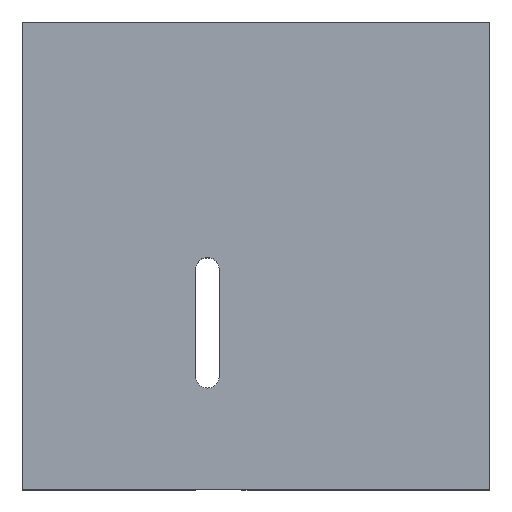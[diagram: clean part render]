
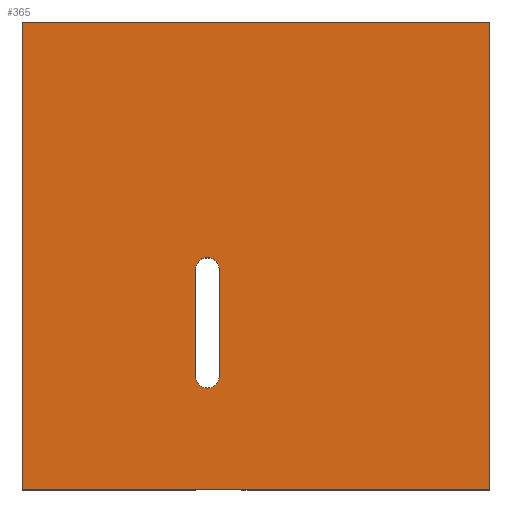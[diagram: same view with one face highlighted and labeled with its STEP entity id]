
A CAD part, top view. The second image highlights one B-rep face of the part: STEP entity #365.
In plain terms, the highlighted planar face has unit normal (0, 0, 1).
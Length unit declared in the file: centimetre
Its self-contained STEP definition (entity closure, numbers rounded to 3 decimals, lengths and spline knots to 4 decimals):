
#9 = VERTEX_POINT ( 'NONE', #216 ) ;
#11 = LINE ( 'NONE', #226, #538 ) ;
#18 = CARTESIAN_POINT ( 'NONE',  ( 370.8298, 241.5987, 1000. ) ) ;
#33 = ORIENTED_EDGE ( 'NONE', *, *, #438, .T. ) ;
#45 = CARTESIAN_POINT ( 'NONE',  ( 1000., 1000., 1000. ) ) ;
#52 = DIRECTION ( 'NONE',  ( -1., 0., 0. ) ) ;
#83 = VERTEX_POINT ( 'NONE', #494 ) ;
#84 = EDGE_CURVE ( 'NONE', #678, #516, #11, .T. ) ;
#100 = FACE_BOUND ( 'NONE', #517, .T. ) ;
#108 = EDGE_CURVE ( 'NONE', #605, #678, #574, .T. ) ;
#114 = CARTESIAN_POINT ( 'NONE',  ( 396.0041, 471.1349, 1000. ) ) ;
#118 = LINE ( 'NONE', #121, #625 ) ;
#121 = CARTESIAN_POINT ( 'NONE',  ( 0., 0., 1000. ) ) ;
#124 = ORIENTED_EDGE ( 'NONE', *, *, #108, .T. ) ;
#131 = ORIENTED_EDGE ( 'NONE', *, *, #283, .T. ) ;
#146 = DIRECTION ( 'NONE',  ( -1., 0., 0. ) ) ;
#169 = CARTESIAN_POINT ( 'NONE',  ( 421.1785, 471.1349, 1000. ) ) ;
#171 = VERTEX_POINT ( 'NONE', #211 ) ;
#173 = LINE ( 'NONE', #556, #654 ) ;
#181 = EDGE_CURVE ( 'NONE', #171, #506, #254, .T. ) ;
#183 = ORIENTED_EDGE ( 'NONE', *, *, #84, .T. ) ;
#185 = VECTOR ( 'NONE', #630, 100. ) ;
#211 = CARTESIAN_POINT ( 'NONE',  ( 1000., 0., 1000. ) ) ;
#215 = DIRECTION ( 'NONE',  ( 1., 0., 0. ) ) ;
#216 = CARTESIAN_POINT ( 'NONE',  ( 421.1785, 471.1349, 1000. ) ) ;
#222 = VECTOR ( 'NONE', #146, 100. ) ;
#226 = CARTESIAN_POINT ( 'NONE',  ( 370.8298, 241.5987, 1000. ) ) ;
#237 = ORIENTED_EDGE ( 'NONE', *, *, #181, .T. ) ;
#249 = LINE ( 'NONE', #473, #222 ) ;
#254 = LINE ( 'NONE', #45, #185 ) ;
#264 = FACE_OUTER_BOUND ( 'NONE', #505, .T. ) ;
#267 = DIRECTION ( 'NONE',  ( -1., 0., 0. ) ) ;
#268 = ORIENTED_EDGE ( 'NONE', *, *, #389, .T. ) ;
#276 = DIRECTION ( 'NONE',  ( 0., -1., 0. ) ) ;
#283 = EDGE_CURVE ( 'NONE', #516, #9, #364, .T. ) ;
#333 = ORIENTED_EDGE ( 'NONE', *, *, #553, .T. ) ;
#358 = DIRECTION ( 'NONE',  ( 0., 0., -1. ) ) ;
#364 = CIRCLE ( 'NONE', #467, 25.1743 ) ;
#365 = ADVANCED_FACE ( 'NONE', ( #100, #264 ), #481, .T. ) ;
#384 = DIRECTION ( 'NONE',  ( 0., -1., 0. ) ) ;
#389 = EDGE_CURVE ( 'NONE', #572, #83, #173, .T. ) ;
#404 = VECTOR ( 'NONE', #384, 100. ) ;
#438 = EDGE_CURVE ( 'NONE', #83, #171, #118, .T. ) ;
#440 = DIRECTION ( 'NONE',  ( 0., 1., 0. ) ) ;
#461 = CARTESIAN_POINT ( 'NONE',  ( 421.1785, 241.5987, 1000. ) ) ;
#467 = AXIS2_PLACEMENT_3D ( 'NONE', #114, #545, #267 ) ;
#473 = CARTESIAN_POINT ( 'NONE',  ( 0., 1000., 1000. ) ) ;
#477 = CARTESIAN_POINT ( 'NONE',  ( 396.0041, 241.5987, 1000. ) ) ;
#481 = PLANE ( 'NONE',  #691 ) ;
#494 = CARTESIAN_POINT ( 'NONE',  ( 0., 0., 1000. ) ) ;
#503 = DIRECTION ( 'NONE',  ( 1., 0., 0. ) ) ;
#505 = EDGE_LOOP ( 'NONE', ( #268, #33, #237, #333 ) ) ;
#506 = VERTEX_POINT ( 'NONE', #656 ) ;
#514 = EDGE_CURVE ( 'NONE', #9, #605, #607, .T. ) ;
#516 = VERTEX_POINT ( 'NONE', #603 ) ;
#517 = EDGE_LOOP ( 'NONE', ( #124, #183, #131, #614 ) ) ;
#521 = CARTESIAN_POINT ( 'NONE',  ( 0., 1000., 1000. ) ) ;
#538 = VECTOR ( 'NONE', #440, 100. ) ;
#542 = DIRECTION ( 'NONE',  ( 0., 0., 1. ) ) ;
#545 = DIRECTION ( 'NONE',  ( 0., 0., -1. ) ) ;
#553 = EDGE_CURVE ( 'NONE', #506, #572, #249, .T. ) ;
#556 = CARTESIAN_POINT ( 'NONE',  ( 0., 1000., 1000. ) ) ;
#572 = VERTEX_POINT ( 'NONE', #521 ) ;
#574 = CIRCLE ( 'NONE', #619, 25.1743 ) ;
#603 = CARTESIAN_POINT ( 'NONE',  ( 370.8298, 471.1349, 1000. ) ) ;
#605 = VERTEX_POINT ( 'NONE', #461 ) ;
#607 = LINE ( 'NONE', #169, #404 ) ;
#614 = ORIENTED_EDGE ( 'NONE', *, *, #514, .T. ) ;
#619 = AXIS2_PLACEMENT_3D ( 'NONE', #477, #358, #52 ) ;
#625 = VECTOR ( 'NONE', #503, 100. ) ;
#630 = DIRECTION ( 'NONE',  ( 0., 1., 0. ) ) ;
#654 = VECTOR ( 'NONE', #276, 100. ) ;
#656 = CARTESIAN_POINT ( 'NONE',  ( 1000., 1000., 1000. ) ) ;
#678 = VERTEX_POINT ( 'NONE', #18 ) ;
#691 = AXIS2_PLACEMENT_3D ( 'NONE', #700, #542, #215 ) ;
#700 = CARTESIAN_POINT ( 'NONE',  ( 0., 0., 1000. ) ) ;
